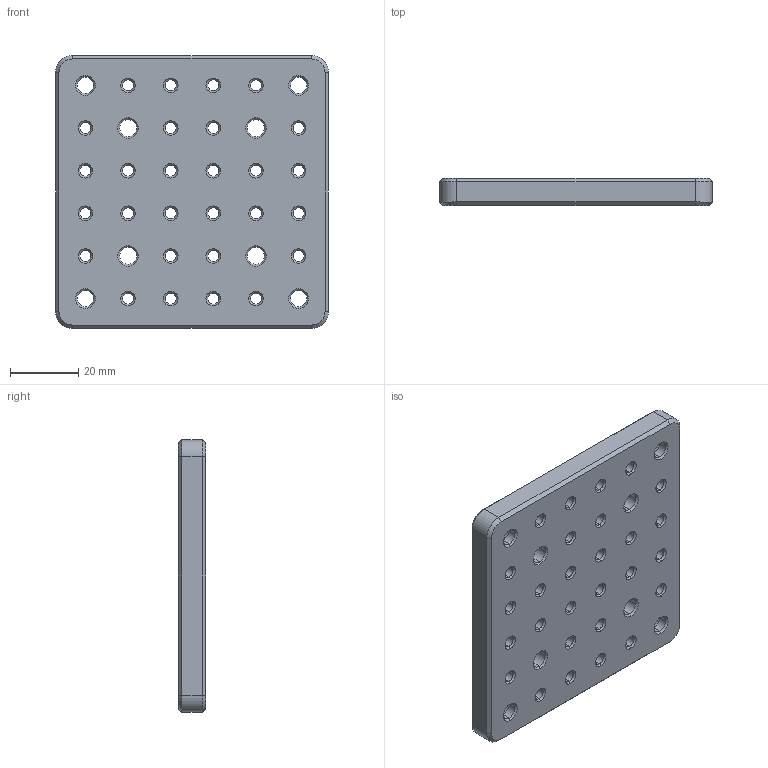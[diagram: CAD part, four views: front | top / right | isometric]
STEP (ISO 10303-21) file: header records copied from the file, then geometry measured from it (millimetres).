
FILE_DESCRIPTION (( 'STEP AP203' ), '1' );
FILE_NAME ('底座（8x8）2.STEP', '2025-05-26T01:44:04', ( '' ), ( '' ), 'SwSTEP 2.0', 'SolidWorks 2020', '' );
FILE_SCHEMA (( 'CONFIG_CONTROL_DESIGN' ));
Length unit declared in the file: millimetre
Products named in the file (1): 菁釱ㄗ8x8ㄘ2
Bounding box: 80 x 8 x 80 mm (x, y, z)
Volume: 46884.5 mm3; surface area: 17366.3 mm2
Topology: 1 solids, 1 shells, 254 faces, 584 edges, 336 vertices
Faces by surface type: cone 152, cylinder 84, plane 18
Entity records: 7349 total; most frequent: DIRECTION 1414, CARTESIAN_POINT 1175, ORIENTED_EDGE 1168, EDGE_CURVE 584, AXIS2_PLACEMENT_3D 575, VERTEX_POINT 336, EDGE_LOOP 330, CIRCLE 320
